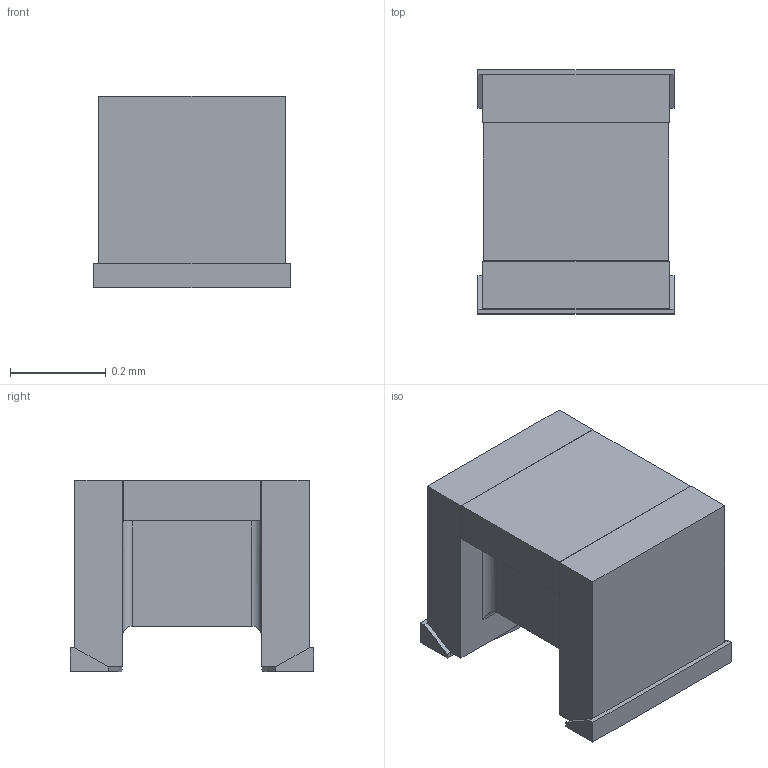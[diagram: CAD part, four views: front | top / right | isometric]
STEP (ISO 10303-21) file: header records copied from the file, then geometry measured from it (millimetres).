
FILE_DESCRIPTION(('STEP AP203'), '1');
FILE_NAME('KIK 0603 (0201)', '', ('UNSPECIFIED'), ('UNSPECIFIED'), 'ASCON STEP Converter 1.6', 'ASCON Math Kernel', '');
FILE_SCHEMA(('CONFIG_CONTROL_DESIGN'));
Length unit declared in the file: millimetre
Assembly tree (1 placements, depth 2):
  (unnamed)
    (unnamed)
Bounding box: 0.41 x 0.51 x 0.4 mm (x, y, z)
Volume: 0.1 mm3; surface area: 1.3 mm2
Topology: 1 solids, 2 shells, 69 faces, 171 edges, 108 vertices
Faces by surface type: plane 57, cylinder 10, extrusion 2
Entity records: 2649 total; most frequent: CARTESIAN_POINT 374, ORIENTED_EDGE 342, DIRECTION 319, EDGE_CURVE 171, VECTOR 149, LINE 147, VERTEX_POINT 108, AXIS2_PLACEMENT_3D 85
